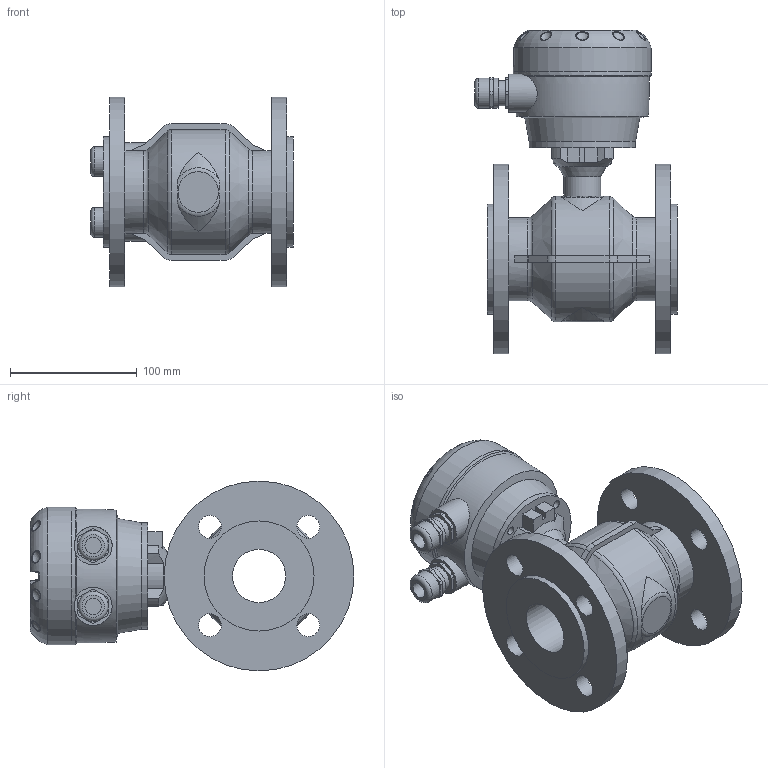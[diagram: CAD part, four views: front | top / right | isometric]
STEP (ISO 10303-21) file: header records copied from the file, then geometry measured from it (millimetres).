
FILE_DESCRIPTION (( 'STEP AP203' ), '1' );
FILE_NAME ('KROHNE_OPTIFLUX_2-4000W_DIN2635_DN40_PN40.STEP', '2011-04-26T11:25:53', ( '' ), ( '' ), 'SwSTEP 2.0', 'SolidWorks 2010', '' );
FILE_SCHEMA (( 'CONFIG_CONTROL_DESIGN' ));
Length unit declared in the file: millimetre
Products named in the file (1): KROHNE_OPTIFLUX_2-4000W_DIN2635_DN40_PN40
Bounding box: 160 x 255.99 x 150 mm (x, y, z)
Volume: 1721797.6 mm3; surface area: 235572.8 mm2
Topology: 14 solids, 18 shells, 399 faces, 968 edges, 626 vertices
Faces by surface type: plane 183, cylinder 98, bspline 53, torus 34, cone 18, sphere 13
Full cylindrical faces by diameter (mm): 4 x4, 6.6 x8, 13 x2, 18 x8, 20 x2, 23.5 x4, 29 x1, 30 x2, 42 x1, 65.6 x2, 84 x2, 87 x2, 109 x1, 150 x2
Entity records: 16124 total; most frequent: CARTESIAN_POINT 7353, ORIENTED_EDGE 1762, DIRECTION 1661, EDGE_CURVE 881, AXIS2_PLACEMENT_3D 615, VERTEX_POINT 607, EDGE_LOOP 532, FACE_OUTER_BOUND 457
